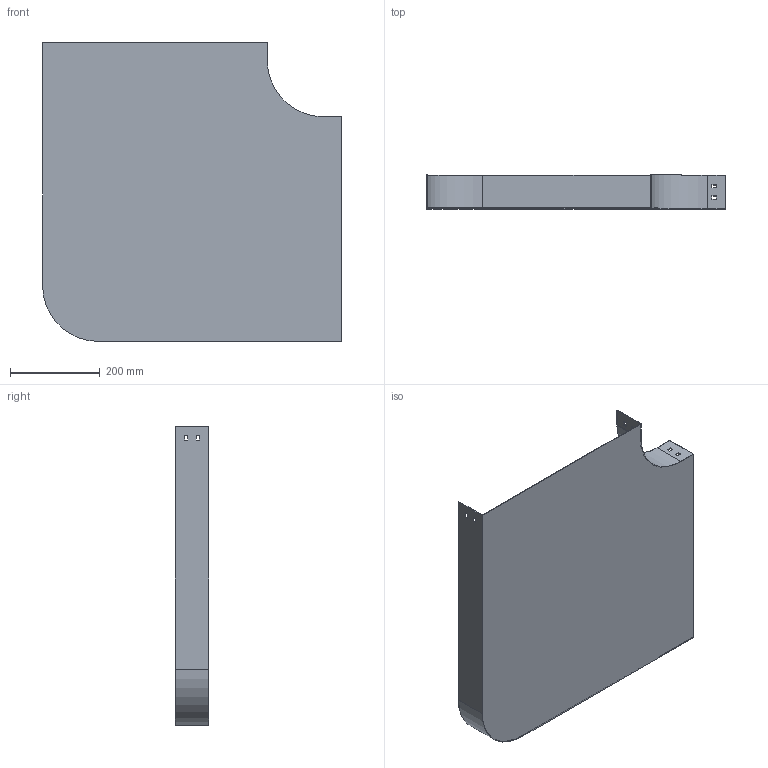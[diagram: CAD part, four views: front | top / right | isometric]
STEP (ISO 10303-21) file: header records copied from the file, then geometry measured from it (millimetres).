
FILE_DESCRIPTION (( 'STEP AP214' ), '1' );
FILE_NAME ('P9_507.step', '2025-07-16T09:21:17', ( '' ), ( '' ), 'SwSTEP 2.0', 'SolidWorks 2023', '' );
FILE_SCHEMA (( 'AUTOMOTIVE_DESIGN' ));
Length unit declared in the file: millimetre
Products named in the file (1): P9_507
Bounding box: 665 x 75 x 665 mm (x, y, z)
Volume: 792845.1 mm3; surface area: 1061804.8 mm2
Topology: 1 solids, 1 shells, 50 faces, 144 edges, 96 vertices
Faces by surface type: plane 46, cylinder 4
Entity records: 1671 total; most frequent: CARTESIAN_POINT 291, ORIENTED_EDGE 288, DIRECTION 254, EDGE_CURVE 144, VECTOR 136, LINE 136, VERTEX_POINT 96, EDGE_LOOP 66
